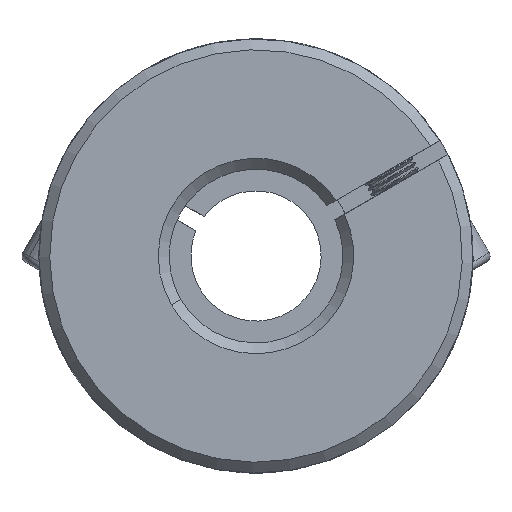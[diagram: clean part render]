
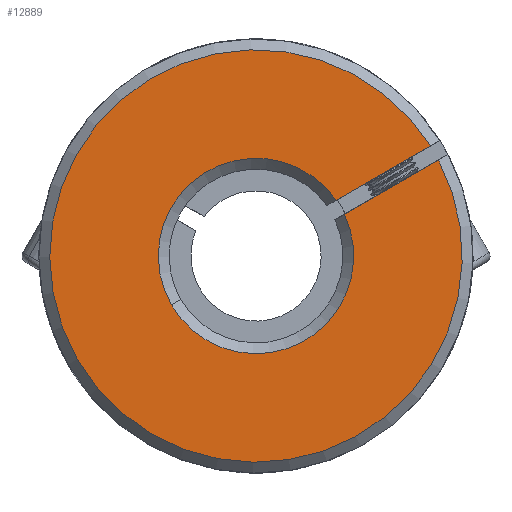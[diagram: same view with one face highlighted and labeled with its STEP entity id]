
A CAD part, front view. The second image highlights one B-rep face of the part: STEP entity #12889.
In plain terms, the highlighted planar face has unit normal (0, -1, 0).
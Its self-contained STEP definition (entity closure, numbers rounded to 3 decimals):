
#250 = CARTESIAN_POINT ( 'NONE',  ( 5.825, -31.239, 43.335 ) ) ;
#701 = CARTESIAN_POINT ( 'NONE',  ( -9.24, -31.239, 35.498 ) ) ;
#707 = ORIENTED_EDGE ( 'NONE', *, *, #3445, .F. ) ;
#1730 = CARTESIAN_POINT ( 'NONE',  ( 5.074, -31.239, 44.634 ) ) ;
#1759 = VECTOR ( 'NONE', #10497, 1000. ) ;
#2042 = ORIENTED_EDGE ( 'NONE', *, *, #6498, .T. ) ;
#2099 = DIRECTION ( 'NONE',  ( 0.5, 0., -0.866 ) ) ;
#2566 = DIRECTION ( 'NONE',  ( 0., 1., 0. ) ) ;
#3445 = EDGE_CURVE ( 'NONE', #10479, #9024, #5461, .T. ) ;
#3548 = DIRECTION ( 'NONE',  ( 0.5, 0., -0.866 ) ) ;
#3579 = CARTESIAN_POINT ( 'NONE',  ( -1.447, -31.239, 40. ) ) ;
#3880 = EDGE_CURVE ( 'NONE', #4832, #9024, #8903, .T. ) ;
#3922 = LINE ( 'NONE', #1730, #1759 ) ;
#4309 = CARTESIAN_POINT ( 'NONE',  ( 52.98, -31.239, 45.743 ) ) ;
#4400 = DIRECTION ( 'NONE',  ( 0., -1., 0. ) ) ;
#4413 = DIRECTION ( 'NONE',  ( 0.5, 0., -0.866 ) ) ;
#4664 = CARTESIAN_POINT ( 'NONE',  ( 6.694, -31.239, 43.837 ) ) ;
#4832 = VERTEX_POINT ( 'NONE', #13997 ) ;
#5104 = EDGE_CURVE ( 'NONE', #4832, #6332, #3922, .T. ) ;
#5461 = LINE ( 'NONE', #250, #9735 ) ;
#5793 = AXIS2_PLACEMENT_3D ( 'NONE', #4309, #8598, #4413 ) ;
#6332 = VERTEX_POINT ( 'NONE', #8023 ) ;
#6378 = EDGE_LOOP ( 'NONE', ( #707, #13238, #2042, #7718, #13441 ) ) ;
#6498 = EDGE_CURVE ( 'NONE', #10994, #6332, #10675, .T. ) ;
#7718 = ORIENTED_EDGE ( 'NONE', *, *, #5104, .F. ) ;
#7783 = DIRECTION ( 'NONE',  ( 0.866, 0., 0.5 ) ) ;
#8023 = CARTESIAN_POINT ( 'NONE',  ( 5.943, -31.239, 45.136 ) ) ;
#8598 = DIRECTION ( 'NONE',  ( 0., 1., 0. ) ) ;
#8829 = EDGE_CURVE ( 'NONE', #10479, #10994, #10503, .T. ) ;
#8903 = CIRCLE ( 'NONE', #11832, 19. ) ;
#9024 = VERTEX_POINT ( 'NONE', #13304 ) ;
#9735 = VECTOR ( 'NONE', #7783, 1000. ) ;
#9795 = CARTESIAN_POINT ( 'NONE',  ( -1.447, -31.239, 40. ) ) ;
#10479 = VERTEX_POINT ( 'NONE', #4664 ) ;
#10497 = DIRECTION ( 'NONE',  ( -0.866, 0., -0.5 ) ) ;
#10503 = CIRCLE ( 'NONE', #12699, 9. ) ;
#10675 = CIRCLE ( 'NONE', #11947, 9. ) ;
#10818 = PLANE ( 'NONE',  #5793 ) ;
#10994 = VERTEX_POINT ( 'NONE', #701 ) ;
#11832 = AXIS2_PLACEMENT_3D ( 'NONE', #9795, #4400, #2099 ) ;
#11936 = FACE_OUTER_BOUND ( 'NONE', #6378, .T. ) ;
#11947 = AXIS2_PLACEMENT_3D ( 'NONE', #3579, #2566, #3548 ) ;
#12699 = AXIS2_PLACEMENT_3D ( 'NONE', #13846, #13980, #13897 ) ;
#12889 = ADVANCED_FACE ( 'NONE', ( #11936 ), #10818, .F. ) ;
#13238 = ORIENTED_EDGE ( 'NONE', *, *, #8829, .T. ) ;
#13304 = CARTESIAN_POINT ( 'NONE',  ( 15.367, -31.239, 48.848 ) ) ;
#13441 = ORIENTED_EDGE ( 'NONE', *, *, #3880, .T. ) ;
#13846 = CARTESIAN_POINT ( 'NONE',  ( -1.447, -31.239, 40. ) ) ;
#13897 = DIRECTION ( 'NONE',  ( 0.5, 0., -0.866 ) ) ;
#13980 = DIRECTION ( 'NONE',  ( 0., 1., 0. ) ) ;
#13997 = CARTESIAN_POINT ( 'NONE',  ( 14.616, -31.239, 50.147 ) ) ;
